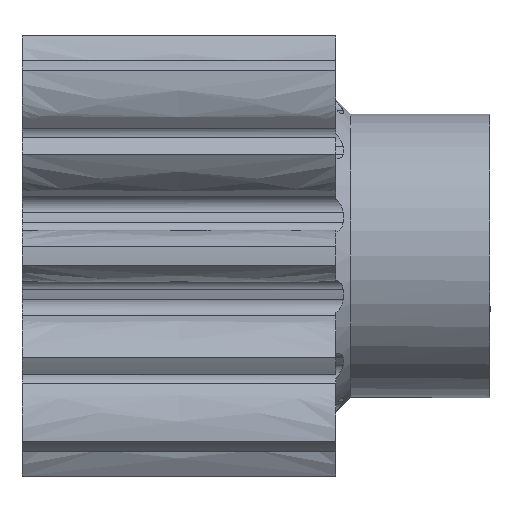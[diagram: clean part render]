
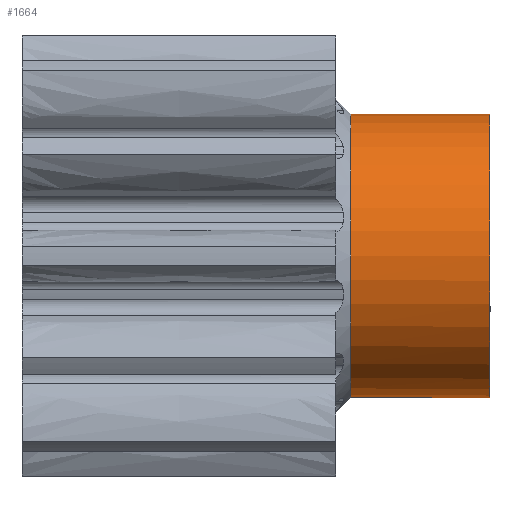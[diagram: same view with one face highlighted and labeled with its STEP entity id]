
A CAD part, front view. The second image highlights one B-rep face of the part: STEP entity #1664.
In plain terms, the highlighted cylindrical face has radius 2.8 mm (diameter 5.6 mm), a full revolution.
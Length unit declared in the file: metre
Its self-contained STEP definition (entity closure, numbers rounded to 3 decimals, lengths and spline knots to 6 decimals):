
#85=CYLINDRICAL_SURFACE('',#1851,0.0028);
#763=ORIENTED_EDGE('',*,*,#1084,.F.);
#764=ORIENTED_EDGE('',*,*,#1085,.T.);
#1084=EDGE_CURVE('',#1261,#1261,#1373,.T.);
#1085=EDGE_CURVE('',#1262,#1262,#1374,.T.);
#1261=VERTEX_POINT('',#5205);
#1262=VERTEX_POINT('',#5207);
#1373=CIRCLE('',#1852,0.0028);
#1374=CIRCLE('',#1853,0.0028);
#1462=EDGE_LOOP('',(#763));
#1463=EDGE_LOOP('',(#764));
#1556=FACE_BOUND('',#1462,.T.);
#1557=FACE_BOUND('',#1463,.T.);
#1664=ADVANCED_FACE('',(#1556,#1557),#85,.T.);
#1851=AXIS2_PLACEMENT_3D('',#5203,#2272,#2273);
#1852=AXIS2_PLACEMENT_3D('',#5204,#2274,#2275);
#1853=AXIS2_PLACEMENT_3D('',#5206,#2276,#2277);
#2272=DIRECTION('',(1.,0.,0.));
#2273=DIRECTION('',(0.,-1.,0.));
#2274=DIRECTION('',(1.,0.,0.));
#2275=DIRECTION('',(0.,-1.,0.));
#2276=DIRECTION('',(1.,0.,0.));
#2277=DIRECTION('',(0.,0.,1.));
#5203=CARTESIAN_POINT('',(0.006045,0.0225,0.0111));
#5204=CARTESIAN_POINT('',(0.009095,0.0225,0.0111));
#5205=CARTESIAN_POINT('',(0.009095,0.0197,0.0111));
#5206=CARTESIAN_POINT('',(0.006345,0.0225,0.0111));
#5207=CARTESIAN_POINT('',(0.006345,0.0225,0.0139));
